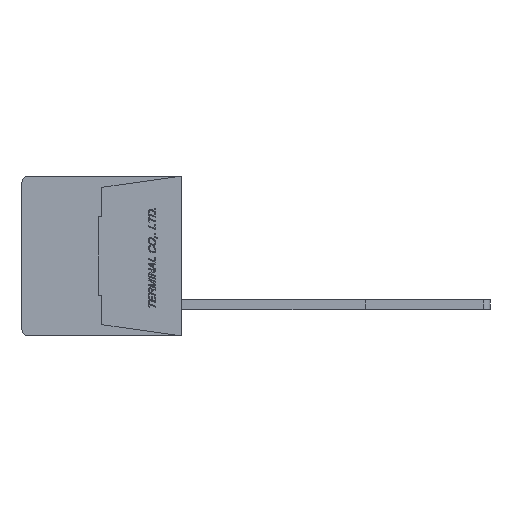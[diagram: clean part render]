
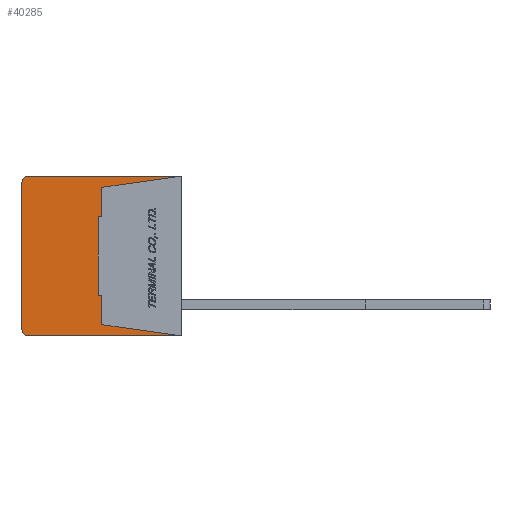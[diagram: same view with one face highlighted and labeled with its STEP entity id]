
A CAD part, left-side view. The second image highlights one B-rep face of the part: STEP entity #40285.
In plain terms, the highlighted planar face has unit normal (-1, 0, 0).
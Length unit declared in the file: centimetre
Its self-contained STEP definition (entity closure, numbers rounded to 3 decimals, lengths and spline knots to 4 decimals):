
#2039=CIRCLE('',#68918,0.05);
#2040=CIRCLE('',#68921,0.05);
#3572=VERTEX_POINT('',#55981);
#3573=VERTEX_POINT('',#55983);
#3574=VERTEX_POINT('',#55987);
#3575=VERTEX_POINT('',#55991);
#3576=VERTEX_POINT('',#55995);
#3577=VERTEX_POINT('',#55999);
#3578=VERTEX_POINT('',#56003);
#3579=VERTEX_POINT('',#56005);
#3580=VERTEX_POINT('',#56007);
#3581=VERTEX_POINT('',#56009);
#3582=VERTEX_POINT('',#56011);
#3583=VERTEX_POINT('',#56013);
#7837=VECTOR('',#46745,1.);
#7841=VECTOR('',#46754,1.);
#7844=VECTOR('',#46762,1.);
#7845=VECTOR('',#46764,1.);
#7846=VECTOR('',#46765,1.);
#7847=VECTOR('',#46766,1.);
#7848=VECTOR('',#46767,1.);
#7849=VECTOR('',#46768,1.);
#7850=VECTOR('',#46769,1.);
#7851=VECTOR('',#46770,1.);
#12568=LINE('',#55982,#7837);
#12572=LINE('',#55992,#7841);
#12575=LINE('',#56000,#7844);
#12576=LINE('',#56002,#7845);
#12577=LINE('',#56004,#7846);
#12578=LINE('',#56006,#7847);
#12579=LINE('',#56008,#7848);
#12580=LINE('',#56010,#7849);
#12581=LINE('',#56012,#7850);
#12582=LINE('',#56014,#7851);
#17845=EDGE_CURVE('',#3573,#3572,#12568,.T.);
#17848=EDGE_CURVE('',#3574,#3572,#2039,.T.);
#17850=EDGE_CURVE('',#3574,#3575,#12572,.T.);
#17852=EDGE_CURVE('',#3576,#3575,#2040,.T.);
#17854=EDGE_CURVE('',#3576,#3577,#12575,.T.);
#17855=EDGE_CURVE('',#3578,#3573,#12576,.T.);
#17856=EDGE_CURVE('',#3577,#3579,#12577,.T.);
#17857=EDGE_CURVE('',#3579,#3580,#12578,.T.);
#17858=EDGE_CURVE('',#3580,#3581,#12579,.T.);
#17859=EDGE_CURVE('',#3581,#3582,#12580,.T.);
#17860=EDGE_CURVE('',#3582,#3583,#12581,.T.);
#17861=EDGE_CURVE('',#3583,#3578,#12582,.T.);
#26033=ORIENTED_EDGE('',*,*,#17855,.T.);
#26034=ORIENTED_EDGE('',*,*,#17845,.T.);
#26035=ORIENTED_EDGE('',*,*,#17848,.F.);
#26036=ORIENTED_EDGE('',*,*,#17850,.T.);
#26037=ORIENTED_EDGE('',*,*,#17852,.F.);
#26038=ORIENTED_EDGE('',*,*,#17854,.T.);
#26039=ORIENTED_EDGE('',*,*,#17856,.T.);
#26040=ORIENTED_EDGE('',*,*,#17857,.T.);
#26041=ORIENTED_EDGE('',*,*,#17858,.T.);
#26042=ORIENTED_EDGE('',*,*,#17859,.T.);
#26043=ORIENTED_EDGE('',*,*,#17860,.T.);
#26044=ORIENTED_EDGE('',*,*,#17861,.T.);
#35066=EDGE_LOOP('',(#26033,#26034,#26035,#26036,#26037,#26038,#26039,#26040,
#26041,#26042,#26043,#26044));
#37741=FACE_BOUND('',#35066,.T.);
#40285=ADVANCED_FACE('',(#37741),#42485,.F.);
#42485=PLANE('',#68923);
#46745=DIRECTION('',(0.,1.,0.));
#46750=DIRECTION('',(1.,0.,0.));
#46751=DIRECTION('',(0.,0.,-0.05));
#46754=DIRECTION('',(0.,0.,-1.));
#46758=DIRECTION('',(1.,0.,0.));
#46759=DIRECTION('',(0.,0.,-0.05));
#46762=DIRECTION('',(0.,-1.,0.));
#46763=DIRECTION('',(1.,0.,0.));
#46764=DIRECTION('',(0.,-0.99,0.139));
#46765=DIRECTION('',(0.,0.99,0.139));
#46766=DIRECTION('',(0.,0.,1.));
#46767=DIRECTION('',(0.,1.,0.));
#46768=DIRECTION('',(0.,0.,1.));
#46769=DIRECTION('',(0.,-1.,0.));
#46770=DIRECTION('',(0.,0.,1.));
#55981=CARTESIAN_POINT('',(-1.,1.23,0.64));
#55982=CARTESIAN_POINT('',(-1.,0.,0.64));
#55983=CARTESIAN_POINT('',(-1.,0.,0.64));
#55987=CARTESIAN_POINT('',(-1.,1.28,0.59));
#55988=CARTESIAN_POINT('',(-1.,1.23,0.59));
#55991=CARTESIAN_POINT('',(-1.,1.28,-0.59));
#55992=CARTESIAN_POINT('',(-1.,1.28,0.59));
#55995=CARTESIAN_POINT('',(-1.,1.23,-0.64));
#55996=CARTESIAN_POINT('',(-1.,1.23,-0.59));
#55999=CARTESIAN_POINT('',(-1.,0.,-0.64));
#56000=CARTESIAN_POINT('',(-1.,1.23,-0.64));
#56001=CARTESIAN_POINT('',(-1.,0.6345,0.));
#56002=CARTESIAN_POINT('',(-1.,0.64,0.55));
#56003=CARTESIAN_POINT('',(-1.,0.64,0.55));
#56004=CARTESIAN_POINT('',(-1.,0.,-0.64));
#56005=CARTESIAN_POINT('',(-1.,0.64,-0.55));
#56006=CARTESIAN_POINT('',(-1.,0.64,-0.55));
#56007=CARTESIAN_POINT('',(-1.,0.64,-0.315));
#56008=CARTESIAN_POINT('',(-1.,0.64,-0.315));
#56009=CARTESIAN_POINT('',(-1.,0.67,-0.315));
#56010=CARTESIAN_POINT('',(-1.,0.67,-0.315));
#56011=CARTESIAN_POINT('',(-1.,0.67,0.315));
#56012=CARTESIAN_POINT('',(-1.,0.67,0.315));
#56013=CARTESIAN_POINT('',(-1.,0.64,0.315));
#56014=CARTESIAN_POINT('',(-1.,0.64,0.315));
#68918=AXIS2_PLACEMENT_3D('',#55988,#46750,#46751);
#68921=AXIS2_PLACEMENT_3D('',#55996,#46758,#46759);
#68923=AXIS2_PLACEMENT_3D('',#56001,#46763,$);
